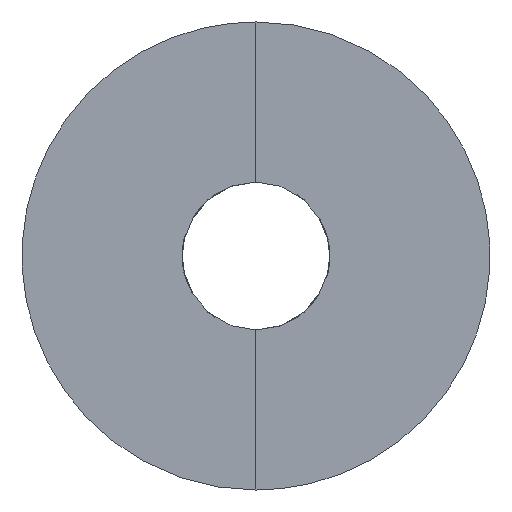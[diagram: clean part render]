
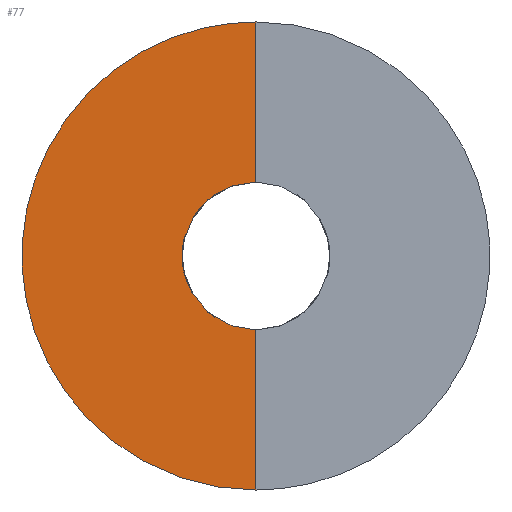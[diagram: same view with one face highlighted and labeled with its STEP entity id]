
A CAD part, left-side view. The second image highlights one B-rep face of the part: STEP entity #77.
In plain terms, the highlighted free-form (B-spline) face has degree [2, 1] with [9, 2] control points.
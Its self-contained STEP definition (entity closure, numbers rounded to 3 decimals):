
#77=ADVANCED_FACE('',(#101),#701,.T.);
#101=FACE_OUTER_BOUND('',#125,.T.);
#125=EDGE_LOOP('',(#182,#183,#184,#185));
#182=ORIENTED_EDGE('',*,*,#524,.T.);
#183=ORIENTED_EDGE('',*,*,#517,.F.);
#184=ORIENTED_EDGE('',*,*,#525,.T.);
#185=ORIENTED_EDGE('',*,*,#522,.F.);
#243=(
BOUNDED_CURVE()
B_SPLINE_CURVE(2,(#1218,#1219,#1220,#1221,#1222),.UNSPECIFIED.,.F.,.F.)
B_SPLINE_CURVE_WITH_KNOTS((3,2,3),(0.,1.571,3.142),
 .UNSPECIFIED.)
CURVE()
GEOMETRIC_REPRESENTATION_ITEM()
RATIONAL_B_SPLINE_CURVE((1.,0.707,1.,0.707,1.))
REPRESENTATION_ITEM('')
);
#245=(
BOUNDED_CURVE()
B_SPLINE_CURVE(2,(#1246,#1247,#1248,#1249,#1250),.UNSPECIFIED.,.F.,.F.)
B_SPLINE_CURVE_WITH_KNOTS((3,2,3),(-3.142,-1.571,0.),
 .UNSPECIFIED.)
CURVE()
GEOMETRIC_REPRESENTATION_ITEM()
RATIONAL_B_SPLINE_CURVE((1.,0.707,1.,0.707,1.))
REPRESENTATION_ITEM('')
);
#293=PCURVE('',#698,#389);
#299=PCURVE('',#700,#395);
#302=PCURVE('',#701,#398);
#303=PCURVE('',#701,#399);
#304=PCURVE('',#701,#400);
#305=PCURVE('',#701,#401);
#319=PCURVE('',#705,#415);
#321=PCURVE('',#705,#417);
#389=DEFINITIONAL_REPRESENTATION('',(#591),#1600);
#395=DEFINITIONAL_REPRESENTATION('',(#600),#1600);
#398=DEFINITIONAL_REPRESENTATION('',(#605),#1600);
#399=DEFINITIONAL_REPRESENTATION('',(#606),#1600);
#400=DEFINITIONAL_REPRESENTATION('',(#608),#1600);
#401=DEFINITIONAL_REPRESENTATION('',(#609),#1600);
#415=DEFINITIONAL_REPRESENTATION('',(#623),#1600);
#417=DEFINITIONAL_REPRESENTATION('',(#625),#1600);
#469=SURFACE_CURVE('',#243,(#293,#303),.PCURVE_S1.);
#474=SURFACE_CURVE('',#245,(#299,#305),.PCURVE_S1.);
#476=SURFACE_CURVE('',#604,(#302,#321),.PCURVE_S1.);
#477=SURFACE_CURVE('',#607,(#304,#319),.PCURVE_S1.);
#517=EDGE_CURVE('',#675,#678,#469,.T.);
#522=EDGE_CURVE('',#681,#676,#474,.T.);
#524=EDGE_CURVE('',#681,#678,#476,.T.);
#525=EDGE_CURVE('',#675,#676,#477,.T.);
#591=B_SPLINE_CURVE_WITH_KNOTS('',1,(#1223,#1224),.UNSPECIFIED.,.F.,.F.,
(2,2),(0.,3.142),.UNSPECIFIED.);
#600=B_SPLINE_CURVE_WITH_KNOTS('',1,(#1251,#1252),.UNSPECIFIED.,.F.,.F.,
(2,2),(-3.142,0.),.UNSPECIFIED.);
#604=B_SPLINE_CURVE_WITH_KNOTS('',1,(#1259,#1260),.UNSPECIFIED.,.F.,.F.,
(2,2),(12.5,19.),.UNSPECIFIED.);
#605=B_SPLINE_CURVE_WITH_KNOTS('',1,(#1261,#1262),.UNSPECIFIED.,.F.,.F.,
(2,2),(12.5,19.),.UNSPECIFIED.);
#606=B_SPLINE_CURVE_WITH_KNOTS('',1,(#1263,#1264),.UNSPECIFIED.,.F.,.F.,
(2,2),(0.,3.142),.UNSPECIFIED.);
#607=B_SPLINE_CURVE_WITH_KNOTS('',1,(#1265,#1266),.UNSPECIFIED.,.F.,.F.,
(2,2),(-19.,-12.5),.UNSPECIFIED.);
#608=B_SPLINE_CURVE_WITH_KNOTS('',1,(#1267,#1268),.UNSPECIFIED.,.F.,.F.,
(2,2),(-19.,-12.5),.UNSPECIFIED.);
#609=B_SPLINE_CURVE_WITH_KNOTS('',1,(#1269,#1270),.UNSPECIFIED.,.F.,.F.,
(2,2),(-3.142,0.),.UNSPECIFIED.);
#623=B_SPLINE_CURVE_WITH_KNOTS('',1,(#1317,#1318),.UNSPECIFIED.,.F.,.F.,
(2,2),(-19.,-12.5),.UNSPECIFIED.);
#625=B_SPLINE_CURVE_WITH_KNOTS('',1,(#1321,#1322),.UNSPECIFIED.,.F.,.F.,
(2,2),(12.5,19.),.UNSPECIFIED.);
#675=VERTEX_POINT('',#1196);
#676=VERTEX_POINT('',#1197);
#678=VERTEX_POINT('',#1199);
#681=VERTEX_POINT('',#1202);
#698=(
BOUNDED_SURFACE()
B_SPLINE_SURFACE(2,1,((#1051,#1052),(#1053,#1054),(#1055,#1056),(#1057,#1058),
(#1059,#1060),(#1061,#1062),(#1063,#1064),(#1065,#1066),(#1067,#1068)),
 .UNSPECIFIED.,.T.,.F.,.F.)
B_SPLINE_SURFACE_WITH_KNOTS((3,2,2,2,3),(2,2),(0.,1.571,3.142,
4.712,6.283),(19.,25.),.UNSPECIFIED.)
GEOMETRIC_REPRESENTATION_ITEM()
RATIONAL_B_SPLINE_SURFACE(((1.,1.),(0.707,0.707),
(1.,1.),(0.707,0.707),(1.,1.),(0.707,
0.707),(1.,1.),(0.707,0.707),(1.,1.)))
REPRESENTATION_ITEM('')
SURFACE()
);
#700=(
BOUNDED_SURFACE()
B_SPLINE_SURFACE(2,1,((#1087,#1088),(#1089,#1090),(#1091,#1092),(#1093,#1094),
(#1095,#1096),(#1097,#1098),(#1099,#1100),(#1101,#1102),(#1103,#1104)),
 .UNSPECIFIED.,.T.,.F.,.F.)
B_SPLINE_SURFACE_WITH_KNOTS((3,2,2,2,3),(2,2),(0.,1.571,3.142,
4.712,6.283),(6.5,12.5),.UNSPECIFIED.)
GEOMETRIC_REPRESENTATION_ITEM()
RATIONAL_B_SPLINE_SURFACE(((1.,1.),(0.707,0.707),
(1.,1.),(0.707,0.707),(1.,1.),(0.707,
0.707),(1.,1.),(0.707,0.707),(1.,1.)))
REPRESENTATION_ITEM('')
SURFACE()
);
#701=(
BOUNDED_SURFACE()
B_SPLINE_SURFACE(2,1,((#1105,#1106),(#1107,#1108),(#1109,#1110),(#1111,#1112),
(#1113,#1114),(#1115,#1116),(#1117,#1118),(#1119,#1120),(#1121,#1122)),
 .UNSPECIFIED.,.T.,.F.,.F.)
B_SPLINE_SURFACE_WITH_KNOTS((3,2,2,2,3),(2,2),(0.,1.571,3.142,
4.712,6.283),(12.5,19.),.UNSPECIFIED.)
GEOMETRIC_REPRESENTATION_ITEM()
RATIONAL_B_SPLINE_SURFACE(((1.,1.),(0.707,0.707),
(1.,1.),(0.707,0.707),(1.,1.),(0.707,
0.707),(1.,1.),(0.707,0.707),(1.,1.)))
REPRESENTATION_ITEM('')
SURFACE()
);
#705=(
BOUNDED_SURFACE()
B_SPLINE_SURFACE(2,1,((#1177,#1178),(#1179,#1180),(#1181,#1182),(#1183,#1184),
(#1185,#1186),(#1187,#1188),(#1189,#1190),(#1191,#1192),(#1193,#1194)),
 .UNSPECIFIED.,.T.,.F.,.F.)
B_SPLINE_SURFACE_WITH_KNOTS((3,2,2,2,3),(2,2),(0.,1.571,3.142,
4.712,6.283),(12.5,19.),.UNSPECIFIED.)
GEOMETRIC_REPRESENTATION_ITEM()
RATIONAL_B_SPLINE_SURFACE(((1.,1.),(0.707,0.707),
(1.,1.),(0.707,0.707),(1.,1.),(0.707,
0.707),(1.,1.),(0.707,0.707),(1.,1.)))
REPRESENTATION_ITEM('')
SURFACE()
);
#1051=CARTESIAN_POINT('',(-3.,0.,3.));
#1052=CARTESIAN_POINT('',(3.,0.,3.));
#1053=CARTESIAN_POINT('',(-3.,3.,3.));
#1054=CARTESIAN_POINT('',(3.,3.,3.));
#1055=CARTESIAN_POINT('',(-3.,3.,0.));
#1056=CARTESIAN_POINT('',(3.,3.,0.));
#1057=CARTESIAN_POINT('',(-3.,3.,-3.));
#1058=CARTESIAN_POINT('',(3.,3.,-3.));
#1059=CARTESIAN_POINT('',(-3.,0.,-3.));
#1060=CARTESIAN_POINT('',(3.,0.,-3.));
#1061=CARTESIAN_POINT('',(-3.,-3.,-3.));
#1062=CARTESIAN_POINT('',(3.,-3.,-3.));
#1063=CARTESIAN_POINT('',(-3.,-3.,0.));
#1064=CARTESIAN_POINT('',(3.,-3.,0.));
#1065=CARTESIAN_POINT('',(-3.,-3.,3.));
#1066=CARTESIAN_POINT('',(3.,-3.,3.));
#1067=CARTESIAN_POINT('',(-3.,0.,3.));
#1068=CARTESIAN_POINT('',(3.,0.,3.));
#1087=CARTESIAN_POINT('',(3.,0.,9.5));
#1088=CARTESIAN_POINT('',(-3.,0.,9.5));
#1089=CARTESIAN_POINT('',(3.,9.5,9.5));
#1090=CARTESIAN_POINT('',(-3.,9.5,9.5));
#1091=CARTESIAN_POINT('',(3.,9.5,0.));
#1092=CARTESIAN_POINT('',(-3.,9.5,0.));
#1093=CARTESIAN_POINT('',(3.,9.5,-9.5));
#1094=CARTESIAN_POINT('',(-3.,9.5,-9.5));
#1095=CARTESIAN_POINT('',(3.,0.,-9.5));
#1096=CARTESIAN_POINT('',(-3.,0.,-9.5));
#1097=CARTESIAN_POINT('',(3.,-9.5,-9.5));
#1098=CARTESIAN_POINT('',(-3.,-9.5,-9.5));
#1099=CARTESIAN_POINT('',(3.,-9.5,0.));
#1100=CARTESIAN_POINT('',(-3.,-9.5,0.));
#1101=CARTESIAN_POINT('',(3.,-9.5,9.5));
#1102=CARTESIAN_POINT('',(-3.,-9.5,9.5));
#1103=CARTESIAN_POINT('',(3.,0.,9.5));
#1104=CARTESIAN_POINT('',(-3.,0.,9.5));
#1105=CARTESIAN_POINT('',(-3.,0.,9.5));
#1106=CARTESIAN_POINT('',(-3.,0.,3.));
#1107=CARTESIAN_POINT('',(-3.,9.5,9.5));
#1108=CARTESIAN_POINT('',(-3.,3.,3.));
#1109=CARTESIAN_POINT('',(-3.,9.5,0.));
#1110=CARTESIAN_POINT('',(-3.,3.,0.));
#1111=CARTESIAN_POINT('',(-3.,9.5,-9.5));
#1112=CARTESIAN_POINT('',(-3.,3.,-3.));
#1113=CARTESIAN_POINT('',(-3.,0.,-9.5));
#1114=CARTESIAN_POINT('',(-3.,0.,-3.));
#1115=CARTESIAN_POINT('',(-3.,-9.5,-9.5));
#1116=CARTESIAN_POINT('',(-3.,-3.,-3.));
#1117=CARTESIAN_POINT('',(-3.,-9.5,0.));
#1118=CARTESIAN_POINT('',(-3.,-3.,0.));
#1119=CARTESIAN_POINT('',(-3.,-9.5,9.5));
#1120=CARTESIAN_POINT('',(-3.,-3.,3.));
#1121=CARTESIAN_POINT('',(-3.,0.,9.5));
#1122=CARTESIAN_POINT('',(-3.,0.,3.));
#1177=CARTESIAN_POINT('',(-3.,0.,9.5));
#1178=CARTESIAN_POINT('',(-3.,0.,3.));
#1179=CARTESIAN_POINT('',(-3.,9.5,9.5));
#1180=CARTESIAN_POINT('',(-3.,3.,3.));
#1181=CARTESIAN_POINT('',(-3.,9.5,0.));
#1182=CARTESIAN_POINT('',(-3.,3.,0.));
#1183=CARTESIAN_POINT('',(-3.,9.5,-9.5));
#1184=CARTESIAN_POINT('',(-3.,3.,-3.));
#1185=CARTESIAN_POINT('',(-3.,0.,-9.5));
#1186=CARTESIAN_POINT('',(-3.,0.,-3.));
#1187=CARTESIAN_POINT('',(-3.,-9.5,-9.5));
#1188=CARTESIAN_POINT('',(-3.,-3.,-3.));
#1189=CARTESIAN_POINT('',(-3.,-9.5,0.));
#1190=CARTESIAN_POINT('',(-3.,-3.,0.));
#1191=CARTESIAN_POINT('',(-3.,-9.5,9.5));
#1192=CARTESIAN_POINT('',(-3.,-3.,3.));
#1193=CARTESIAN_POINT('',(-3.,0.,9.5));
#1194=CARTESIAN_POINT('',(-3.,0.,3.));
#1196=CARTESIAN_POINT('',(-3.,0.,3.));
#1197=CARTESIAN_POINT('',(-3.,0.,9.5));
#1199=CARTESIAN_POINT('',(-3.,0.,-3.));
#1202=CARTESIAN_POINT('',(-3.,0.,-9.5));
#1218=CARTESIAN_POINT('',(-3.,0.,3.));
#1219=CARTESIAN_POINT('',(-3.,3.,3.));
#1220=CARTESIAN_POINT('',(-3.,3.,0.));
#1221=CARTESIAN_POINT('',(-3.,3.,-3.));
#1222=CARTESIAN_POINT('',(-3.,0.,-3.));
#1223=CARTESIAN_POINT('',(0.,19.));
#1224=CARTESIAN_POINT('',(3.142,19.));
#1246=CARTESIAN_POINT('',(-3.,0.,-9.5));
#1247=CARTESIAN_POINT('',(-3.,9.5,-9.5));
#1248=CARTESIAN_POINT('',(-3.,9.5,0.));
#1249=CARTESIAN_POINT('',(-3.,9.5,9.5));
#1250=CARTESIAN_POINT('',(-3.,0.,9.5));
#1251=CARTESIAN_POINT('',(3.142,12.5));
#1252=CARTESIAN_POINT('',(0.,12.5));
#1259=CARTESIAN_POINT('',(-3.,0.,-9.5));
#1260=CARTESIAN_POINT('',(-3.,0.,-3.));
#1261=CARTESIAN_POINT('',(3.142,12.5));
#1262=CARTESIAN_POINT('',(3.142,19.));
#1263=CARTESIAN_POINT('',(0.,19.));
#1264=CARTESIAN_POINT('',(3.142,19.));
#1265=CARTESIAN_POINT('',(-3.,0.,3.));
#1266=CARTESIAN_POINT('',(-3.,0.,9.5));
#1267=CARTESIAN_POINT('',(0.,19.));
#1268=CARTESIAN_POINT('',(0.,12.5));
#1269=CARTESIAN_POINT('',(3.142,12.5));
#1270=CARTESIAN_POINT('',(0.,12.5));
#1317=CARTESIAN_POINT('',(6.283,19.));
#1318=CARTESIAN_POINT('',(6.283,12.5));
#1321=CARTESIAN_POINT('',(3.142,12.5));
#1322=CARTESIAN_POINT('',(3.142,19.));
#1600=(
GEOMETRIC_REPRESENTATION_CONTEXT(2)
PARAMETRIC_REPRESENTATION_CONTEXT()
REPRESENTATION_CONTEXT('pspace','')
);
